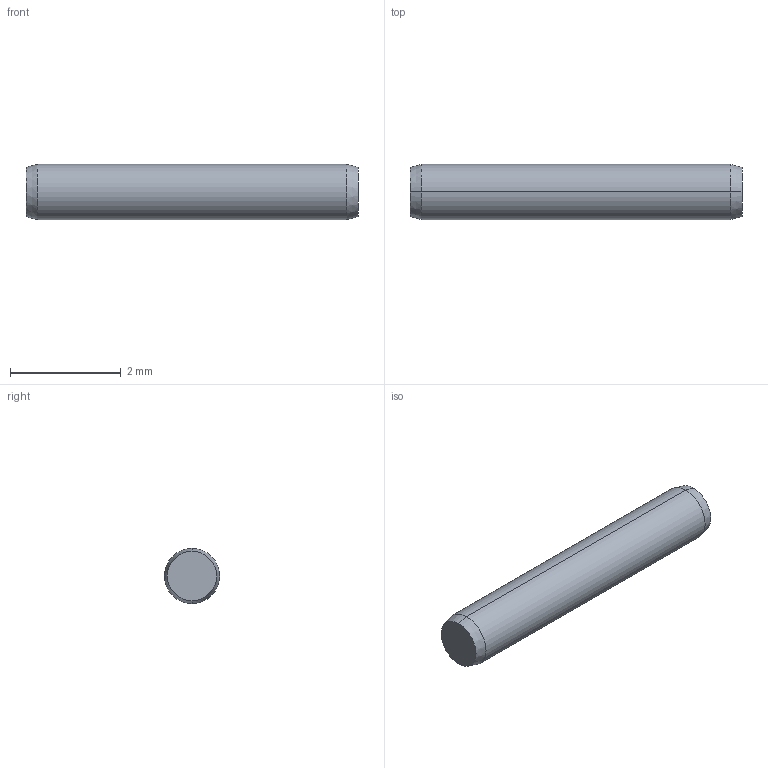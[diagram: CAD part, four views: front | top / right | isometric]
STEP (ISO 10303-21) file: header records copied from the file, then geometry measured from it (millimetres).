
FILE_DESCRIPTION (( 'STEP AP203' ), '1' );
FILE_NAME ('P1206.010-006.step', '2017-06-14T07:50:36', ( 'User' ), ( '' ), 'SwSTEP 2.0', 'SolidWorks 2009', '' );
FILE_SCHEMA (( 'CONFIG_CONTROL_DESIGN' ));
Length unit declared in the file: millimetre
Products named in the file (1): P1206.010-006
Bounding box: 6 x 1 x 1 mm (x, y, z)
Volume: 4.7 mm3; surface area: 20.1 mm2
Topology: 1 solids, 1 shells, 8 faces, 14 edges, 8 vertices
Faces by surface type: cone 4, cylinder 2, plane 2
Entity records: 271 total; most frequent: DIRECTION 40, CARTESIAN_POINT 31, ORIENTED_EDGE 28, AXIS2_PLACEMENT_3D 17, EDGE_CURVE 14, VERTEX_POINT 8, EDGE_LOOP 8, ADVANCED_FACE 8
